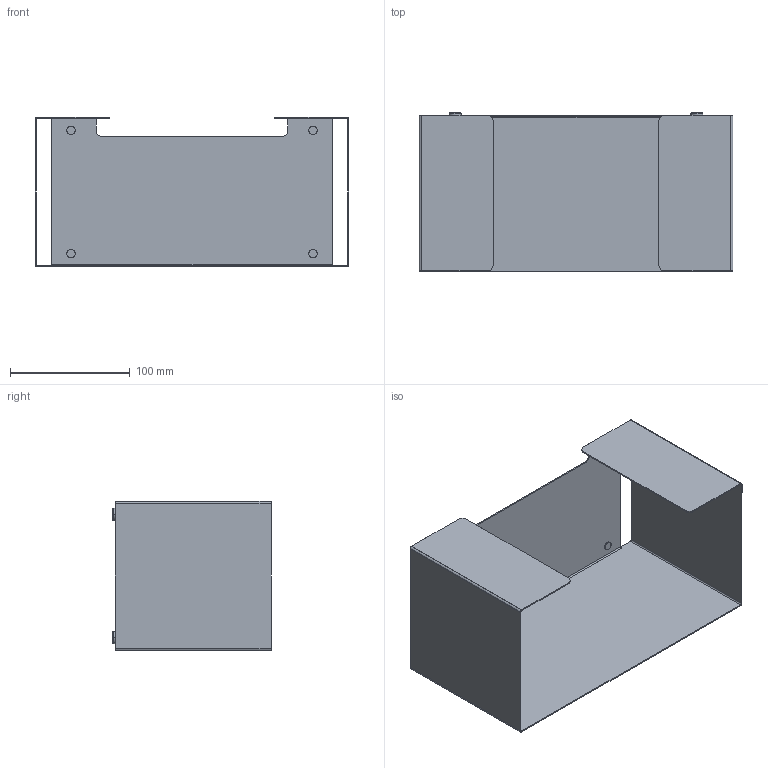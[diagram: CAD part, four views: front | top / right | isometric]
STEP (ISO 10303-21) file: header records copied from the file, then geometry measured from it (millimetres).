
FILE_DESCRIPTION (( 'STEP AP214' ), '1' );
FILE_NAME ('Pojemnik na reczniki papierowe CRESTO.STEP', '2023-01-16T07:22:51', ( '' ), ( '' ), 'SwSTEP 2.0', 'SolidWorks 2021', '' );
FILE_SCHEMA (( 'AUTOMOTIVE_DESIGN' ));
Length unit declared in the file: millimetre
Products named in the file (3): stopka gumowa 10mm_7mm; Pojemnik na reczniki papierowe CRESTO; 09-001-0237-S-00-00
Assembly tree (5 placements, depth 2):
  Pojemnik na reczniki papierowe CRESTO
    09-001-0237-S-00-00
    stopka gumowa 10mm_7mm  x4
Bounding box: 262 x 132 x 125 mm (x, y, z)
Volume: 108812.3 mm3; surface area: 218668.1 mm2
Topology: 5 solids, 5 shells, 104 faces, 224 edges, 134 vertices
Faces by surface type: plane 56, cylinder 40, torus 8
Entity records: 2282 total; most frequent: DIRECTION 408, CARTESIAN_POINT 365, ORIENTED_EDGE 352, EDGE_CURVE 176, AXIS2_PLACEMENT_3D 147, LINE 114, VECTOR 114, VERTEX_POINT 104
